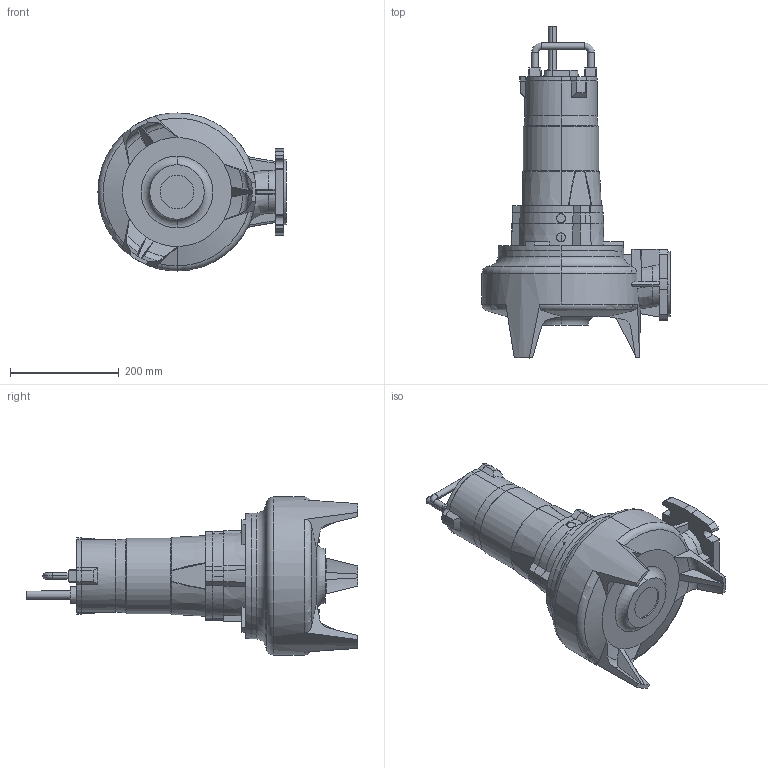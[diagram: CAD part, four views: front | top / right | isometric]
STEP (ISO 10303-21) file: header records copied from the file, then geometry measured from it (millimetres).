
FILE_DESCRIPTION (( 'STEP AP203' ), '1' );
FILE_NAME ('65FWC-V-52.STEP', '2025-03-22T08:53:37', ( '' ), ( '' ), 'SwSTEP 2.0', 'SolidWorks 2023', '' );
FILE_SCHEMA (( 'CONFIG_CONTROL_DESIGN' ));
Length unit declared in the file: millimetre
Products named in the file (1): 65FWC-V-52
Bounding box: 345 x 609 x 290 mm (x, y, z)
Volume: 13611880.4 mm3; surface area: 474092.5 mm2
Topology: 1 solids, 1 shells, 293 faces, 781 edges, 504 vertices
Faces by surface type: plane 127, cone 63, cylinder 61, torus 25, bspline 17
Entity records: 10715 total; most frequent: CARTESIAN_POINT 3679, ORIENTED_EDGE 1562, DIRECTION 1361, EDGE_CURVE 781, AXIS2_PLACEMENT_3D 535, VERTEX_POINT 504, EDGE_LOOP 309, ADVANCED_FACE 293
